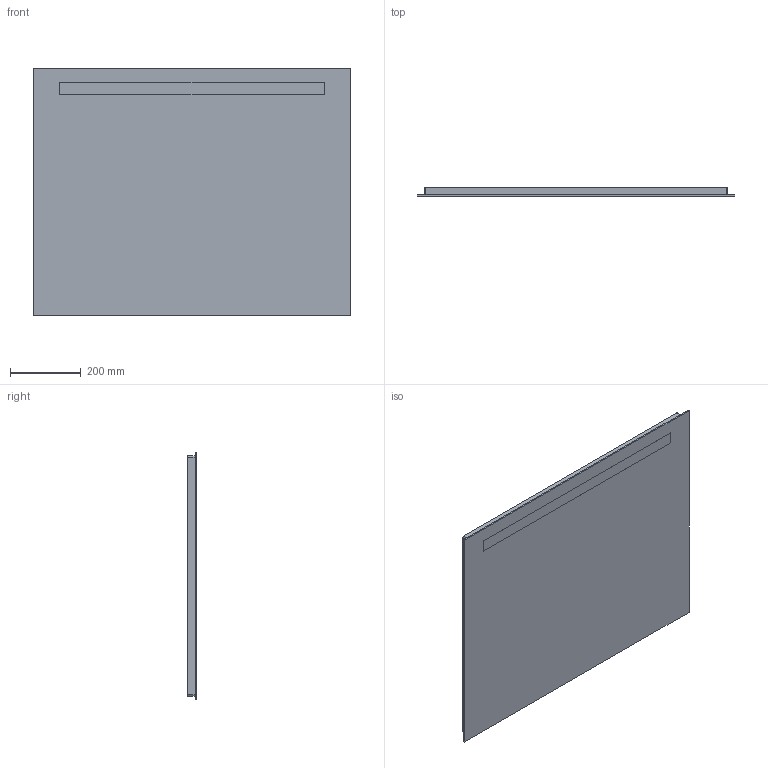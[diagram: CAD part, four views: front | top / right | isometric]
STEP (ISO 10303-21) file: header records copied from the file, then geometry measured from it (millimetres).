
FILE_DESCRIPTION(/* description */ (''),/* implementation_level */ '2;1');
FILE_NAME(/* name */ 'C:\Planerdaten\Export PLA\502.808.00.1\stp\502808.stp',/* time_stamp */ '2022-12-02T15:12:08+01:00',/* author */ ('JANAN'),/* organization */ (''),/* preprocessor_version */ 'ST-DEVELOPER v18.1',/* originating_system */ 'Autodesk Inventor 2021',/* authorisation */ '');
FILE_SCHEMA (('AUTOMOTIVE_DESIGN { 1 0 10303 214 3 1 1 }','PROCESS_PLANNING_SCHEMA'));
Length unit declared in the file: millimetre
Products named in the file (1): tmp6C1D.tmp
Bounding box: 900 x 26 x 700 mm (x, y, z)
Volume: 15380794.4 mm3; surface area: 2511193.5 mm2
Topology: 2 solids, 2 shells, 29 faces, 68 edges, 48 vertices
Faces by surface type: plane 21, cylinder 8
Full cylindrical faces by diameter (mm): 8 x4
Entity records: 937 total; most frequent: DIRECTION 152, CARTESIAN_POINT 146, ORIENTED_EDGE 136, EDGE_CURVE 68, AXIS2_PLACEMENT_3D 54, VERTEX_POINT 48, LINE 44, VECTOR 44
